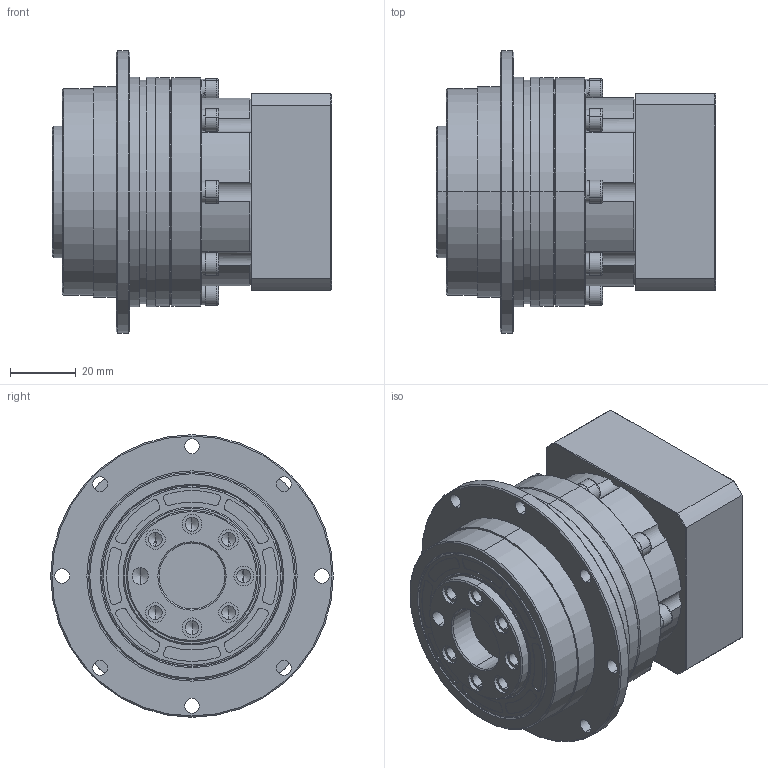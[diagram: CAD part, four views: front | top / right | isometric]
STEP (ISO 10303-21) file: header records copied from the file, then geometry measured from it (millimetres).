
FILE_DESCRIPTION (( 'STEP AP214' ), '1' );
FILE_NAME ('VRT-064-L1-P1 14-50-70-M5.STEP', '2023-08-15T00:53:03', ( '微软用户' ), ( '微软中国' ), 'SwSTEP 2.0', 'SolidWorks 2018', '' );
FILE_SCHEMA (( 'AUTOMOTIVE_DESIGN' ));
Length unit declared in the file: millimetre
Products named in the file (9): hexagon socket head cap screws gb_GB_FASTENER_SCREWS_HSHCS M4X20-N; 一级整体太阳轮夹套外形图 VRT-06414; 萇儂楊擘 VRT-064-D50-M5-70F60H24.5; 笢潔楊擘VRT-064俋倛芞; VRT-064-L1-P1 14-50-70-M5; 一级齿圈 法兰盘VRT-064外形图; spring lock washers--normal type gb_GB_FASTENER_WASHER_SW 4; hexagon socket head cap screws gb_GB_FASTENER_SCREWS_HSHCS M5X16-N; hex socket set screws with flat point gb_GB_FASTENER_SCREWS_HSFP M10X10-N
Assembly tree (34 placements, depth 2):
  VRT-064-L1-P1 14-50-70-M5
    一级齿圈 法兰盘VRT-064外形图
    笢潔楊擘VRT-064俋倛芞
    萇儂楊擘 VRT-064-D50-M5-70F60H24.5
    一级整体太阳轮夹套外形图 VRT-06414
    hexagon socket head cap screws gb_GB_FASTENER_SCREWS_HSHCS M4X20-N  x14
    spring lock washers--normal type gb_GB_FASTENER_WASHER_SW 4  x14
    hexagon socket head cap screws gb_GB_FASTENER_SCREWS_HSHCS M5X16-N
    hex socket set screws with flat point gb_GB_FASTENER_SCREWS_HSFP M10X10-N
Bounding box: 85 x 86 x 86 mm (x, y, z)
Volume: 213402 mm3; surface area: 68873.4 mm2
Topology: 35 solids, 35 shells, 1060 faces, 2581 edges, 1606 vertices
Faces by surface type: cylinder 419, plane 407, cone 202, bspline 32
Entity records: 25585 total; most frequent: CARTESIAN_POINT 3520, DIRECTION 3431, ORIENTED_EDGE 2946, EDGE_CURVE 1473, AXIS2_PLACEMENT_3D 1396, VERTEX_POINT 943, CIRCLE 760, EDGE_LOOP 716
